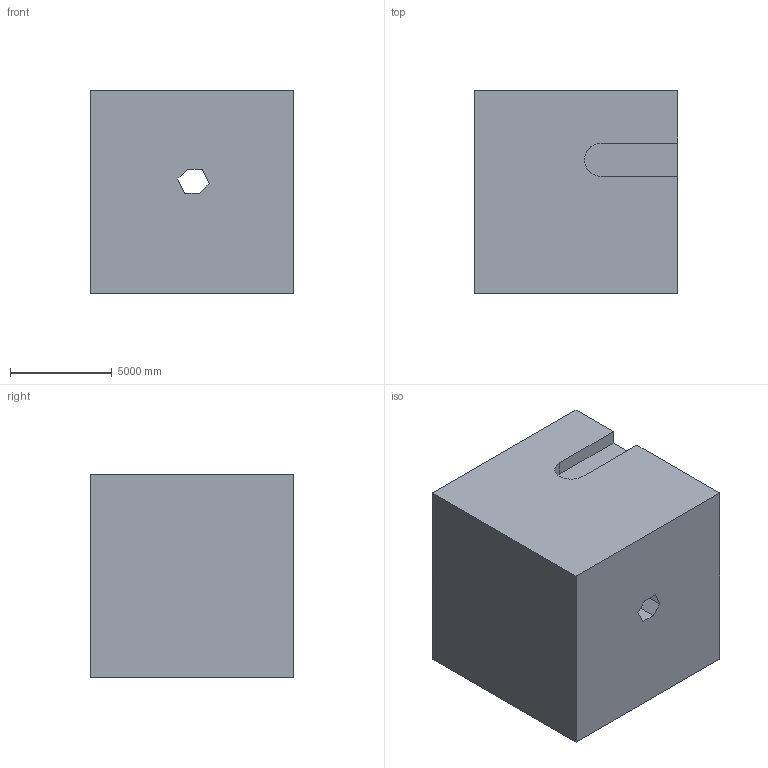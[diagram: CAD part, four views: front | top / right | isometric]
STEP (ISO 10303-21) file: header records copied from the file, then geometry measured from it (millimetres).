
FILE_DESCRIPTION (( 'STEP AP203' ), '1' );
FILE_NAME ('35.STEP', '2022-09-01T11:41:50', ( 'user' ), ( '' ), 'SwSTEP 2.0', 'SolidWorks 2021', '' );
FILE_SCHEMA (( 'CONFIG_CONTROL_DESIGN' ));
Length unit declared in the file: centimetre
Products named in the file (1): 35
Bounding box: 10000 x 10000 x 10000 mm (x, y, z)
Volume: 939946997129.1 mm3; surface area: 661774720.1 mm2
Topology: 1 solids, 1 shells, 22 faces, 57 edges, 38 vertices
Faces by surface type: plane 21, cylinder 1
Entity records: 744 total; most frequent: CARTESIAN_POINT 118, ORIENTED_EDGE 114, DIRECTION 105, EDGE_CURVE 57, LINE 55, VECTOR 55, VERTEX_POINT 38, AXIS2_PLACEMENT_3D 25
